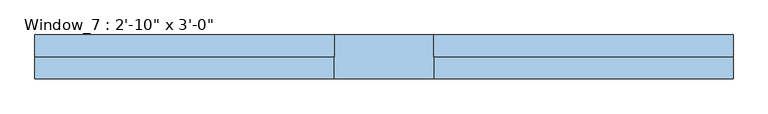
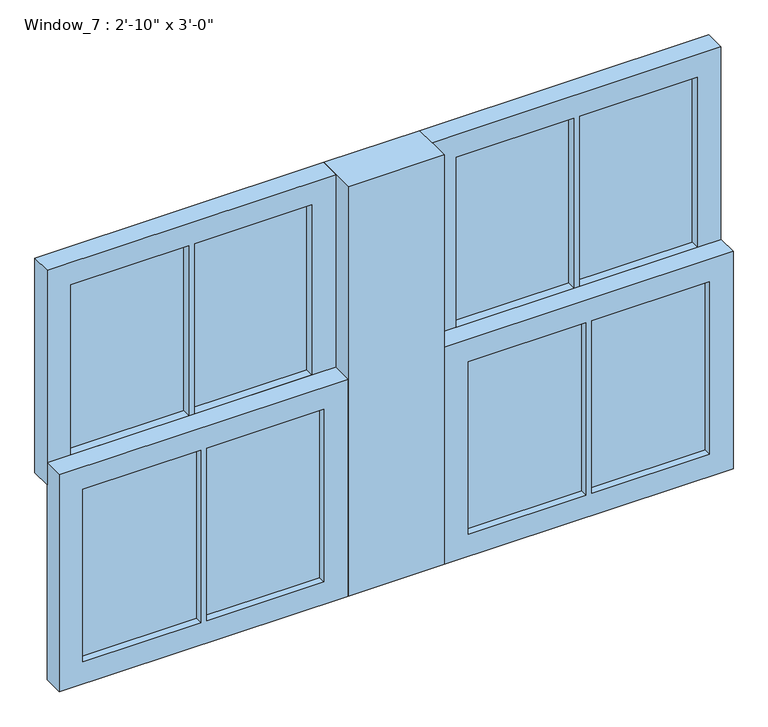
"""IFC4 building model written with IfcOpenShell, lengths in millimetres: window geometry."""

from ifc_helpers import new_model, si_unit, frame, origin, place, context, project, spatial, polyline, outline, extrude, source, transform, mapped, element, save


def window_90565c03(model_context):
    return source(origin(), model_context, "Body", "SweptSolid", [
        extrude(outline(polyline([(-412.35, 57.15), (-661.2, 57.15), (-661.2, 64.0853592), (-412.35, 64.0853592), (-412.35, 57.15)])), frame((0.0, 0.0, 1323.175), z_axis=(0.0, 0.0, 1.0), x_axis=(1.0, 0.0, 0.0)), (0.0, 0.0, 1.0), 379.425),
        extrude(outline(polyline([(661.2, 57.15), (413.15, 57.15), (413.15, 64.0853592), (661.2, 64.0853592), (661.2, 57.15)])), frame((0.0, 0.0, 1323.175), z_axis=(0.0, 0.0, 1.0), x_axis=(1.0, 0.0, 0.0)), (0.0, 0.0, 1.0), 379.425),
        extrude(outline(polyline([(400.45, 57.15), (152.4, 57.15), (152.4, 64.0853592), (400.45, 64.0853592), (400.45, 57.15)])), frame((0.0, 0.0, 1323.175), z_axis=(0.0, 0.0, 1.0), x_axis=(1.0, 0.0, 0.0)), (0.0, 0.0, 1.0), 379.425),
        extrude(outline(polyline([(-152.4, 57.15), (-399.65, 57.15), (-399.65, 64.0853592), (-152.4, 64.0853592), (-152.4, 57.15)])), frame((0.0, 0.0, 1323.175), z_axis=(0.0, 0.0, 1.0), x_axis=(1.0, 0.0, 0.0)), (0.0, 0.0, 1.0), 379.425),
        extrude(outline(polyline([(1752.6, 101.6), (1273.175, 101.6), (1273.175, 711.2), (1752.6, 711.2), (1752.6, 101.6)]), holes=[polyline([(1702.6, 413.15), (1702.6, 661.2), (1323.175, 661.2), (1323.175, 413.15), (1702.6, 413.15)]), polyline([(1702.6, 152.4), (1702.6, 400.45), (1323.175, 400.45), (1323.175, 152.4), (1702.6, 152.4)])]), frame((0.0, 38.1, 0.0), z_axis=(0.0, 1.0, 0.0), x_axis=(0.0, 0.0, 1.0)), (0.0, 0.0, 1.0), 44.45),
        extrude(outline(polyline([(1273.175, -711.2), (1273.175, -101.6), (1752.6, -101.6), (1752.6, -711.2), (1273.175, -711.2)]), holes=[polyline([(1323.175, -661.2), (1702.6, -661.2), (1702.6, -412.35), (1323.175, -412.35), (1323.175, -661.2)]), polyline([(1323.175, -152.4), (1323.175, -399.65), (1702.6, -399.65), (1702.6, -152.4), (1323.175, -152.4)])]), frame((0.0, 38.1, 0.0), z_axis=(0.0, 1.0, 0.0), x_axis=(0.0, 0.0, 1.0)), (0.0, 0.0, 1.0), 44.45),
        extrude(outline(polyline([(-101.6, -6.35), (-101.6, 82.55), (101.6, 82.55), (101.6, -6.35), (-101.6, -6.35)])), frame((0.0, 0.0, 838.2), z_axis=(0.0, 0.0, 1.0), x_axis=(1.0, 0.0, 0.0)), (0.0, 0.0, 1.0), 914.4),
        extrude(outline(polyline([(413.15, 22.225), (661.2, 22.225), (661.2, 9.525), (413.15, 9.525), (413.15, 22.225)])), frame((0.0, 0.0, 888.2), z_axis=(0.0, 0.0, 1.0), x_axis=(1.0, 0.0, 0.0)), (0.0, 0.0, 1.0), 384.975),
        extrude(outline(polyline([(152.4, 22.225), (400.45, 22.225), (400.45, 9.525), (152.4, 9.525), (152.4, 22.225)])), frame((0.0, 0.0, 888.2), z_axis=(0.0, 0.0, 1.0), x_axis=(1.0, 0.0, 0.0)), (0.0, 0.0, 1.0), 384.975),
        extrude(outline(polyline([(-661.2, 22.225), (-412.35, 22.225), (-412.35, 9.525), (-661.2, 9.525), (-661.2, 22.225)])), frame((0.0, 0.0, 888.2), z_axis=(0.0, 0.0, 1.0), x_axis=(1.0, 0.0, 0.0)), (0.0, 0.0, 1.0), 384.975),
        extrude(outline(polyline([(-399.65, 22.225), (-152.4, 22.225), (-152.4, 9.525), (-399.65, 9.525), (-399.65, 22.225)])), frame((0.0, 0.0, 888.2), z_axis=(0.0, 0.0, 1.0), x_axis=(1.0, 0.0, 0.0)), (0.0, 0.0, 1.0), 384.975),
        extrude(outline(polyline([(838.2, -711.2), (838.2, -101.6), (1323.175, -101.6), (1323.175, -711.2), (838.2, -711.2)]), holes=[polyline([(888.2, -661.2), (1273.175, -661.2), (1273.175, -412.35), (888.2, -412.35), (888.2, -661.2)]), polyline([(888.2, -152.4), (888.2, -399.65), (1273.175, -399.65), (1273.175, -152.4), (888.2, -152.4)])]), frame((0.0, -6.35, 0.0), z_axis=(0.0, 1.0, 0.0), x_axis=(0.0, 0.0, 1.0)), (0.0, 0.0, 1.0), 44.45),
        extrude(outline(polyline([(1323.175, 101.6), (838.2, 101.6), (838.2, 711.2), (1323.175, 711.2), (1323.175, 101.6)]), holes=[polyline([(1273.175, 413.15), (1273.175, 661.2), (888.2, 661.2), (888.2, 413.15), (1273.175, 413.15)]), polyline([(1273.175, 152.4), (1273.175, 400.45), (888.2, 400.45), (888.2, 152.4), (1273.175, 152.4)])]), frame((0.0, -6.35, 0.0), z_axis=(0.0, 1.0, 0.0), x_axis=(0.0, 0.0, 1.0)), (0.0, 0.0, 1.0), 44.45),
    ])


if __name__ == "__main__":
    model = new_model("IFC4")
    model_context = context("Model", 3, world=origin())
    ifc_project = project(units=[si_unit("LENGTHUNIT", "METRE", prefix="MILLI")], contexts=[model_context])
    site = spatial("IfcSite", under=ifc_project)
    building = spatial("IfcBuilding", under=site)
    placement = place(None, origin())
    window_shape = window_90565c03(model_context)
    element("IfcWindow", 1, ObjectType="Window_7 : 2'-10\" x 3'-0\"", at=placement, inside=building, context=model_context, shape_type="MappedRepresentation", body=[
        mapped(window_shape, transform((0.0, 0.0, 0.0), x_axis=(1.0, 0.0, 0.0), y_axis=(0.0, 1.0, 0.0), z_axis=(0.0, 0.0, 1.0))),
    ])
    save(model, "model.ifc")
